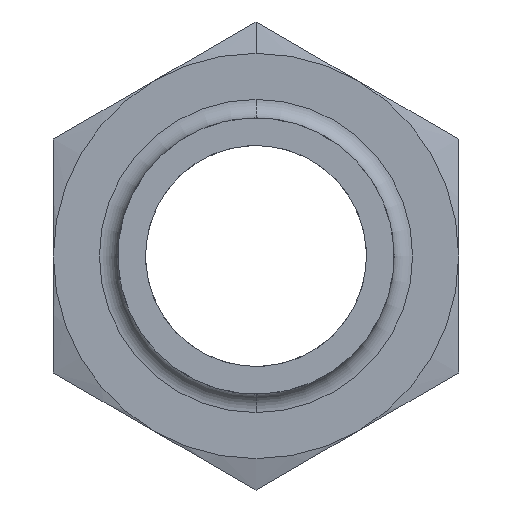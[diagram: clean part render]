
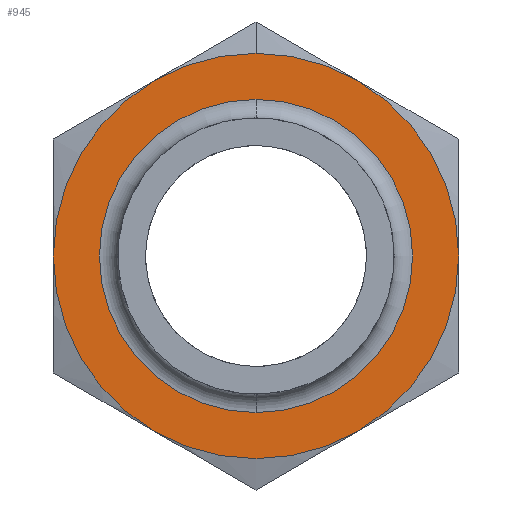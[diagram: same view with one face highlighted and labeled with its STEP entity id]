
A CAD part, left-side view. The second image highlights one B-rep face of the part: STEP entity #945.
In plain terms, the highlighted planar face has unit normal (-1, 0, 0).
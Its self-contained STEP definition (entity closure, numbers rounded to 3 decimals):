
#7 = CIRCLE ( 'NONE', #320, 8.5 ) ;
#23 = AXIS2_PLACEMENT_3D ( 'NONE', #263, #1372, #771 ) ;
#30 = VERTEX_POINT ( 'NONE', #1293 ) ;
#54 = CARTESIAN_POINT ( 'NONE',  ( 0., 0., 8.5 ) ) ;
#67 = EDGE_CURVE ( 'NONE', #30, #1449, #224, .T. ) ;
#79 = CARTESIAN_POINT ( 'NONE',  ( 0., 5.5, -9.526 ) ) ;
#92 = DIRECTION ( 'NONE',  ( -1., 0., 0. ) ) ;
#103 = CARTESIAN_POINT ( 'NONE',  ( 0., 0., -8.5 ) ) ;
#120 = AXIS2_PLACEMENT_3D ( 'NONE', #347, #1200, #259 ) ;
#156 = AXIS2_PLACEMENT_3D ( 'NONE', #1258, #1011, #170 ) ;
#163 = CARTESIAN_POINT ( 'NONE',  ( 0., -5.5, 9.526 ) ) ;
#165 = CIRCLE ( 'NONE', #120, 11. ) ;
#170 = DIRECTION ( 'NONE',  ( 0., 0., 1. ) ) ;
#195 = VERTEX_POINT ( 'NONE', #1433 ) ;
#202 = AXIS2_PLACEMENT_3D ( 'NONE', #989, #377, #417 ) ;
#224 = CIRCLE ( 'NONE', #703, 11. ) ;
#229 = VERTEX_POINT ( 'NONE', #330 ) ;
#231 = DIRECTION ( 'NONE',  ( 1., 0., 0. ) ) ;
#258 = EDGE_LOOP ( 'NONE', ( #532, #1084, #987, #1379, #313, #1353, #1306 ) ) ;
#259 = DIRECTION ( 'NONE',  ( 0., 0., 1. ) ) ;
#263 = CARTESIAN_POINT ( 'NONE',  ( 0., 0., 0. ) ) ;
#295 = EDGE_CURVE ( 'NONE', #708, #503, #1551, .T. ) ;
#298 = DIRECTION ( 'NONE',  ( -1., 0., 0. ) ) ;
#313 = ORIENTED_EDGE ( 'NONE', *, *, #295, .T. ) ;
#320 = AXIS2_PLACEMENT_3D ( 'NONE', #600, #480, #968 ) ;
#330 = CARTESIAN_POINT ( 'NONE',  ( 0., -11., 0. ) ) ;
#347 = CARTESIAN_POINT ( 'NONE',  ( 0., 0., 0. ) ) ;
#357 = CIRCLE ( 'NONE', #445, 8.5 ) ;
#375 = AXIS2_PLACEMENT_3D ( 'NONE', #584, #1085, #1077 ) ;
#377 = DIRECTION ( 'NONE',  ( -1., 0., 0. ) ) ;
#391 = FACE_OUTER_BOUND ( 'NONE', #258, .T. ) ;
#417 = DIRECTION ( 'NONE',  ( 0., 0., 1. ) ) ;
#423 = DIRECTION ( 'NONE',  ( 0., 0., 1. ) ) ;
#445 = AXIS2_PLACEMENT_3D ( 'NONE', #848, #231, #1092 ) ;
#480 = DIRECTION ( 'NONE',  ( 1., 0., 0. ) ) ;
#503 = VERTEX_POINT ( 'NONE', #984 ) ;
#506 = EDGE_CURVE ( 'NONE', #195, #708, #880, .T. ) ;
#526 = VERTEX_POINT ( 'NONE', #54 ) ;
#532 = ORIENTED_EDGE ( 'NONE', *, *, #572, .T. ) ;
#572 = EDGE_CURVE ( 'NONE', #588, #30, #661, .T. ) ;
#584 = CARTESIAN_POINT ( 'NONE',  ( 0., 0., 0. ) ) ;
#588 = VERTEX_POINT ( 'NONE', #163 ) ;
#600 = CARTESIAN_POINT ( 'NONE',  ( 0., 0., 0. ) ) ;
#661 = CIRCLE ( 'NONE', #156, 11. ) ;
#682 = CARTESIAN_POINT ( 'NONE',  ( 0., 0., 0. ) ) ;
#700 = EDGE_CURVE ( 'NONE', #229, #588, #1431, .T. ) ;
#703 = AXIS2_PLACEMENT_3D ( 'NONE', #1408, #298, #423 ) ;
#705 = CARTESIAN_POINT ( 'NONE',  ( 0., -11., -6.351 ) ) ;
#708 = VERTEX_POINT ( 'NONE', #79 ) ;
#771 = DIRECTION ( 'NONE',  ( 0., 0., 1. ) ) ;
#848 = CARTESIAN_POINT ( 'NONE',  ( 0., 0., 0. ) ) ;
#880 = CIRCLE ( 'NONE', #202, 11. ) ;
#904 = VERTEX_POINT ( 'NONE', #103 ) ;
#943 = DIRECTION ( 'NONE',  ( 0., 0., 1. ) ) ;
#945 = ADVANCED_FACE ( 'NONE', ( #1147, #391 ), #1298, .T. ) ;
#968 = DIRECTION ( 'NONE',  ( 0., 0., 1. ) ) ;
#974 = ORIENTED_EDGE ( 'NONE', *, *, #1261, .T. ) ;
#984 = CARTESIAN_POINT ( 'NONE',  ( 0., -5.5, -9.526 ) ) ;
#987 = ORIENTED_EDGE ( 'NONE', *, *, #1472, .T. ) ;
#989 = CARTESIAN_POINT ( 'NONE',  ( 0., 0., 0. ) ) ;
#1011 = DIRECTION ( 'NONE',  ( -1., 0., 0. ) ) ;
#1013 = CARTESIAN_POINT ( 'NONE',  ( 0., 5.5, 9.526 ) ) ;
#1039 = EDGE_CURVE ( 'NONE', #526, #904, #357, .T. ) ;
#1046 = CIRCLE ( 'NONE', #23, 11. ) ;
#1077 = DIRECTION ( 'NONE',  ( 0., 0., 1. ) ) ;
#1084 = ORIENTED_EDGE ( 'NONE', *, *, #67, .T. ) ;
#1085 = DIRECTION ( 'NONE',  ( -1., 0., 0. ) ) ;
#1092 = DIRECTION ( 'NONE',  ( 0., 0., 1. ) ) ;
#1147 = FACE_BOUND ( 'NONE', #1402, .T. ) ;
#1148 = DIRECTION ( 'NONE',  ( -1., 0., 0. ) ) ;
#1198 = ORIENTED_EDGE ( 'NONE', *, *, #1039, .T. ) ;
#1200 = DIRECTION ( 'NONE',  ( -1., 0., 0. ) ) ;
#1258 = CARTESIAN_POINT ( 'NONE',  ( 0., 0., 0. ) ) ;
#1261 = EDGE_CURVE ( 'NONE', #904, #526, #7, .T. ) ;
#1293 = CARTESIAN_POINT ( 'NONE',  ( 0., 0., 11. ) ) ;
#1298 = PLANE ( 'NONE',  #1375 ) ;
#1301 = EDGE_CURVE ( 'NONE', #503, #229, #165, .T. ) ;
#1306 = ORIENTED_EDGE ( 'NONE', *, *, #700, .T. ) ;
#1353 = ORIENTED_EDGE ( 'NONE', *, *, #1301, .T. ) ;
#1358 = AXIS2_PLACEMENT_3D ( 'NONE', #682, #1148, #1420 ) ;
#1372 = DIRECTION ( 'NONE',  ( -1., 0., 0. ) ) ;
#1375 = AXIS2_PLACEMENT_3D ( 'NONE', #705, #92, #943 ) ;
#1379 = ORIENTED_EDGE ( 'NONE', *, *, #506, .T. ) ;
#1402 = EDGE_LOOP ( 'NONE', ( #1198, #974 ) ) ;
#1408 = CARTESIAN_POINT ( 'NONE',  ( 0., 0., 0. ) ) ;
#1420 = DIRECTION ( 'NONE',  ( 0., 0., 1. ) ) ;
#1431 = CIRCLE ( 'NONE', #1358, 11. ) ;
#1433 = CARTESIAN_POINT ( 'NONE',  ( 0., 11., 0. ) ) ;
#1449 = VERTEX_POINT ( 'NONE', #1013 ) ;
#1472 = EDGE_CURVE ( 'NONE', #1449, #195, #1046, .T. ) ;
#1551 = CIRCLE ( 'NONE', #375, 11. ) ;
